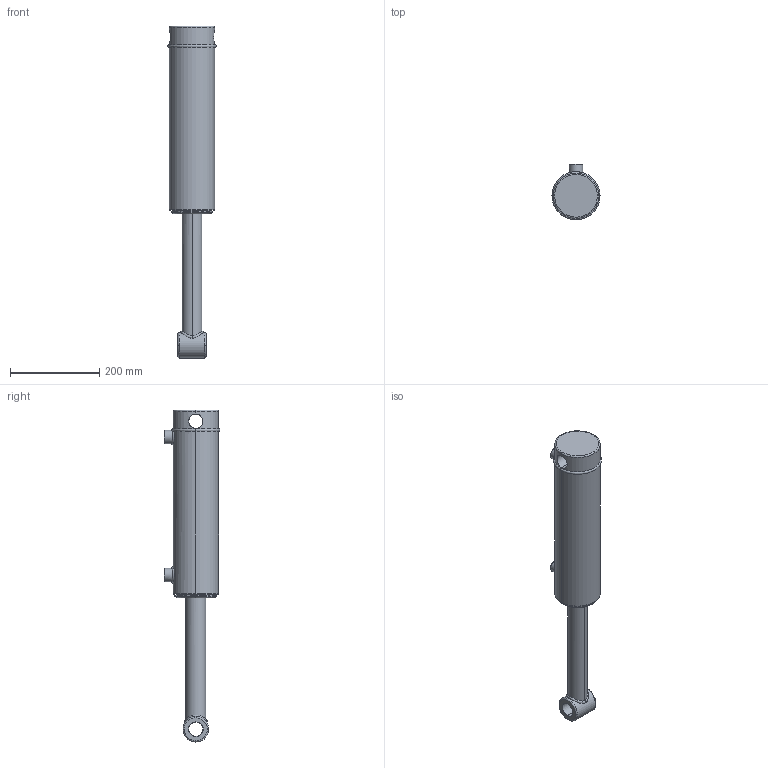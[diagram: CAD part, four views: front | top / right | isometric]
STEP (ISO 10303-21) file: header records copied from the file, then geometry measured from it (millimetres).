
FILE_DESCRIPTION (( 'STEP AP203' ), '1' );
FILE_NAME ('SB-C350175x245 (10) extended.STEP', '2015-03-31T23:18:15', ( '' ), ( '' ), 'SwSTEP 2.0', 'SolidWorks 2015', '' );
FILE_SCHEMA (( 'CONFIG_CONTROL_DESIGN' ));
Length unit declared in the file: millimetre
Products named in the file (6): SB-C350175x457 (18) BODY_10; SB-C350175x457 (18) BODY; 3.5 INCH CIRCLIP; 18 spare_10; spare 18; SB-C350175x245 (10) extended
Assembly tree (5 placements, depth 3):
  SB-C350175x245 (10) extended
    SB-C350175x457 (18) BODY
      SB-C350175x457 (18) BODY_10
      3.5 INCH CIRCLIP
    spare 18
      18 spare_10
Bounding box: 107.6 x 124.6 x 742.58 mm (x, y, z)
Volume: 3435179.8 mm3; surface area: 290405.7 mm2
Topology: 3 solids, 3 shells, 114 faces, 269 edges, 167 vertices
Faces by surface type: cylinder 49, plane 23, bspline 22, cone 12, torus 8
Entity records: 13049 total; most frequent: CARTESIAN_POINT 9929, ORIENTED_EDGE 530, DIRECTION 518, EDGE_CURVE 265, AXIS2_PLACEMENT_3D 220, VERTEX_POINT 167, EDGE_LOOP 134, CIRCLE 118
